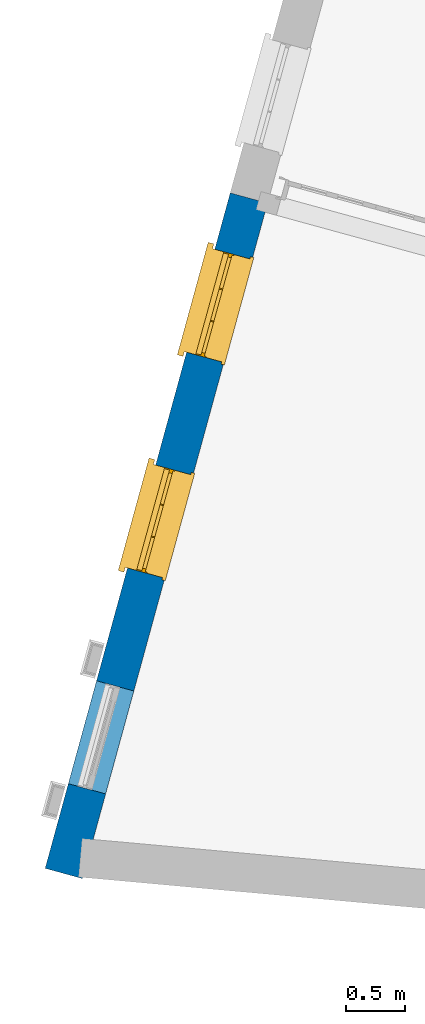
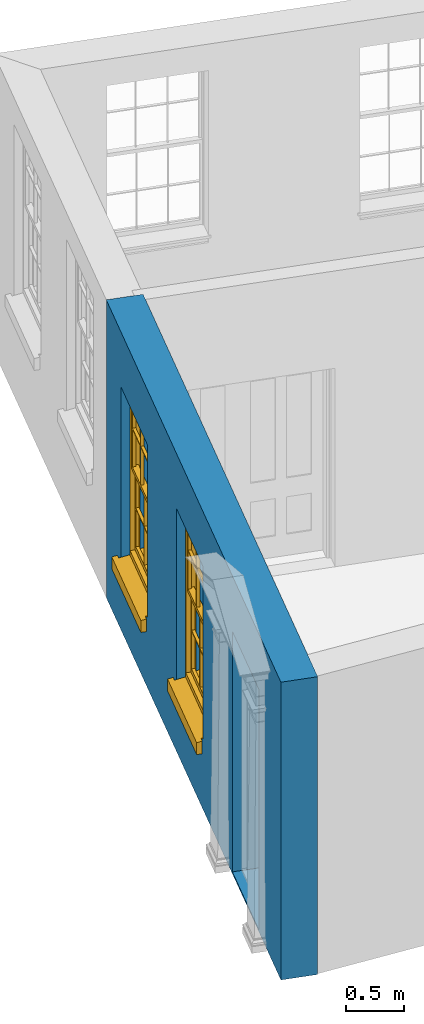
# One storey, part 2 of 8: 2 windows, 1 wall, 3 openings.
"""IFC4 building model written with IfcOpenShell, lengths in metres."""

import ifcopenshell
import ifcopenshell.guid

model = None  # the IFC model being written
_history = None  # IfcOwnerHistory: only IFC2X3 demands one
_inside = {}  # id of a spatial element -> (the spatial element, [elements in it])
_under = {}  # id of a project, library or spatial element -> (it, [spatial elements below it])
_declared = {}  # id of a project -> (the project, [libraries it declares])
_typed = {}  # id of a type object -> (the type object, [elements of that type])
_made_of = {}  # id of a material, layer set ... -> (it, [elements and type objects made of it])


def new_model(schema):
    """Start an empty IFC model of exactly this schema.

    Asked for "IFC4X3", IfcOpenShell would pick the latest addendum, in which some entities
    have other attributes; the version numbers below select the first issue.
    IFC2X3 requires an IfcOwnerHistory on every rooted entity: one is made here for all.
    """
    global model, _history
    if schema == "IFC4X3":
        model = ifcopenshell.file(schema_version=(4, 3, 0, 0))
    else:
        model = ifcopenshell.file(schema=schema)
    _inside.clear()
    _under.clear()
    _declared.clear()
    _typed.clear()
    _made_of.clear()
    _history = None
    if model.schema == "IFC2X3":
        org = make("IfcOrganization", Name="unknown")
        user = make(
            "IfcPersonAndOrganization",
            ThePerson=make("IfcPerson", FamilyName="unknown"),
            TheOrganization=org,
        )
        app = make(
            "IfcApplication",
            ApplicationDeveloper=org,
            Version="unknown",
            ApplicationFullName="unknown",
            ApplicationIdentifier="unknown",
        )
        _history = make(
            "IfcOwnerHistory",
            OwningUser=user,
            OwningApplication=app,
            ChangeAction="ADDED",
            CreationDate=0,
        )
    return model


def make(cls, **values):
    """One entity of the class cls with the attributes given. An attribute that is None is left unset."""
    return model.create_entity(
        cls, **{name: value for name, value in values.items() if value is not None}
    )


def rooted(cls, **values):
    """An entity with a GlobalId (a new one), such as an element, a storey or a relation."""
    return make(cls, GlobalId=ifcopenshell.guid.new(), OwnerHistory=_history, **values)


def si_unit(unit_type, name, prefix=None):
    """IfcSIUnit, for example si_unit("LENGTHUNIT", "METRE", prefix="MILLI")."""
    return make("IfcSIUnit", UnitType=unit_type, Prefix=prefix, Name=name)


def assignment(units):
    """IfcUnitAssignment: the units of a project."""
    return None if units is None else make("IfcUnitAssignment", Units=units)


def point(xyz):
    """IfcCartesianPoint."""
    return None if xyz is None else make("IfcCartesianPoint", Coordinates=xyz)


def direction(xyz):
    """IfcDirection."""
    return None if xyz is None else make("IfcDirection", DirectionRatios=xyz)


def frame(location, z_axis=None, x_axis=None):
    """IfcAxis2Placement3D, a coordinate frame: its origin and axes. An axis left out is left unset."""
    return make(
        "IfcAxis2Placement3D",
        Location=point(location),
        Axis=direction(z_axis),
        RefDirection=direction(x_axis),
    )


def origin():
    """The frame at (0, 0, 0) with its axes left unset."""
    return frame((0.0, 0.0, 0.0))


def origin_with_axes():
    """The frame at (0, 0, 0) with the z axis (0, 0, 1) and the x axis (1, 0, 0) written out."""
    return frame((0.0, 0.0, 0.0), z_axis=(0.0, 0.0, 1.0), x_axis=(1.0, 0.0, 0.0))


def place(relative_to, where):
    """IfcLocalPlacement: puts the frame where relative to a parent placement (None: the world)."""
    return make(
        "IfcLocalPlacement", PlacementRelTo=relative_to, RelativePlacement=where
    )


def context(
    kind, dimensions, precision=None, world=None, true_north=None, identifier=None
):
    """IfcGeometricRepresentationContext, for example the 3D "Model" context."""
    return make(
        "IfcGeometricRepresentationContext",
        ContextIdentifier=identifier,
        ContextType=kind,
        CoordinateSpaceDimension=dimensions,
        Precision=precision,
        WorldCoordinateSystem=world,
        TrueNorth=true_north,
    )


def subcontext(parent, identifier, kind, view, scale=None):
    """IfcGeometricRepresentationSubContext, for example "Body" below "Model"."""
    return make(
        "IfcGeometricRepresentationSubContext",
        ContextIdentifier=identifier,
        ContextType=kind,
        ParentContext=parent,
        TargetScale=scale,
        TargetView=view,
    )


def project(units=None, contexts=None):
    """IfcProject with its units and contexts."""
    return rooted(
        "IfcProject",
        Name="project",
        RepresentationContexts=contexts,
        UnitsInContext=assignment(units),
    )


def spatial(cls, under=None, at=None, **own):
    """A site, building, storey or space (cls), placed at a placement, below another one or the project."""
    s = rooted(cls, ObjectPlacement=at, **own)
    if under is not None:
        _under.setdefault(under.id(), (under, []))[1].append(s)
    return s


def polyline(points):
    """IfcPolyline through the points."""
    return make("IfcPolyline", Points=[point(p) for p in points])


def outline(outer, holes=None, kind="AREA"):
    """IfcArbitraryClosedProfileDef: a profile drawn as a closed curve; with holes, ...WithVoids."""
    if holes is None:
        return make("IfcArbitraryClosedProfileDef", ProfileType=kind, OuterCurve=outer)
    return make(
        "IfcArbitraryProfileDefWithVoids",
        ProfileType=kind,
        OuterCurve=outer,
        InnerCurves=holes,
    )


def extrude(swept, where, along, depth):
    """IfcExtrudedAreaSolid: the profile swept, set in the frame where, extruded along a direction by depth."""
    return make(
        "IfcExtrudedAreaSolid",
        SweptArea=swept,
        Position=where,
        ExtrudedDirection=direction(along),
        Depth=depth,
    )


def faces_of(points, faces, orient=None, outer=None):
    """IfcFace entities. A face is a list of loops; a loop is a list of indices into points, from 0.

    orient and outer hold one flag for each loop. By default every Orientation is true, the
    first loop of a face is its IfcFaceOuterBound and the others are IfcFaceBound.
    """
    made = []
    for i, loops in enumerate(faces):
        bounds = []
        for j, loop in enumerate(loops):
            is_outer = j == 0 if outer is None else outer[i][j]
            bounds.append(
                make(
                    "IfcFaceOuterBound" if is_outer else "IfcFaceBound",
                    Bound=make("IfcPolyLoop", Polygon=[points[k] for k in loop]),
                    Orientation=True if orient is None else orient[i][j],
                )
            )
        made.append(make("IfcFace", Bounds=bounds))
    return made


def faceted_brep(points, faces, orient=None, outer=None, voids=None):
    """IfcFacetedBrep: a solid bounded by flat faces; with voids (closed shells), ...WithVoids."""
    shared = [point(p) for p in points]
    hull = make("IfcClosedShell", CfsFaces=faces_of(shared, faces, orient, outer))
    if voids is None:
        return make("IfcFacetedBrep", Outer=hull)
    return make(
        "IfcFacetedBrepWithVoids",
        Outer=hull,
        Voids=[
            make(cls, CfsFaces=faces_of(shared, fs, o, b)) for cls, fs, o, b in voids
        ],
    )


def shape(context_of_items, identifier, shape_type, items):
    """IfcShapeRepresentation: the items that make up one representation, for example the "Body"."""
    return make(
        "IfcShapeRepresentation",
        ContextOfItems=context_of_items,
        RepresentationIdentifier=identifier,
        RepresentationType=shape_type,
        Items=items,
    )


def source(mapping_origin, context_of_items, identifier, shape_type, items):
    """IfcRepresentationMap: a shape defined once, which mapped items show again and again."""
    return make(
        "IfcRepresentationMap",
        MappingOrigin=mapping_origin,
        MappedRepresentation=shape(context_of_items, identifier, shape_type, items),
    )


def transform(
    local_origin,
    x_axis=None,
    y_axis=None,
    z_axis=None,
    scale=None,
    scale2=None,
    scale3=None,
    uniform=True,
):
    """IfcCartesianTransformationOperator3D, or its non-uniform kind. x_axis, y_axis, z_axis: its Axis1, 2, 3."""
    if uniform:
        return make(
            "IfcCartesianTransformationOperator3D",
            Axis1=direction(x_axis),
            Axis2=direction(y_axis),
            LocalOrigin=point(local_origin),
            Scale=scale,
            Axis3=direction(z_axis),
        )
    return make(
        "IfcCartesianTransformationOperator3DnonUniform",
        Axis1=direction(x_axis),
        Axis2=direction(y_axis),
        LocalOrigin=point(local_origin),
        Scale=scale,
        Axis3=direction(z_axis),
        Scale2=scale2,
        Scale3=scale3,
    )


def mapped(mapping_source, mapping_target):
    """IfcMappedItem: shows the shape of a source again, moved by a transform."""
    return make(
        "IfcMappedItem", MappingSource=mapping_source, MappingTarget=mapping_target
    )


def material(Name=None, Category=None):
    """IfcMaterial."""
    return make("IfcMaterial", Name=Name, Category=Category)


def layer(
    of_material, thickness, ventilated=None, Name=None, Category=None, Priority=None
):
    """IfcMaterialLayer: one layer of a wall or slab, of a material (None: an air gap)."""
    return make(
        "IfcMaterialLayer",
        Material=of_material,
        LayerThickness=thickness,
        IsVentilated=ventilated,
        Name=Name,
        Category=Category,
        Priority=Priority,
    )


def layer_set(layers, Name=None):
    """IfcMaterialLayerSet."""
    return make("IfcMaterialLayerSet", MaterialLayers=layers, LayerSetName=Name)


def layer_usage(for_layer_set, set_direction, sense, offset, extent=None):
    """IfcMaterialLayerSetUsage: how a layer set lies in its element."""
    return make(
        "IfcMaterialLayerSetUsage",
        ForLayerSet=for_layer_set,
        LayerSetDirection=set_direction,
        DirectionSense=sense,
        OffsetFromReferenceLine=offset,
        ReferenceExtent=extent,
    )


def made_of(thing, what):
    """Note that an element or type object is made of a material, layer set ...; save() writes the relation."""
    if what is not None:
        _made_of.setdefault(what.id(), (what, []))[1].append(thing)
    return thing


def type_object(cls, material=None, **own):
    """A type object (cls), such as IfcWallType, which elements share."""
    return made_of(rooted(cls, **own), material)


def type_shapes(of_type, sources):
    """Give a type object the sources (RepresentationMaps) that its elements show as mapped items."""
    of_type.RepresentationMaps = sources


def element(
    cls,
    number,
    at=None,
    inside=None,
    cuts=None,
    type_object=None,
    material=None,
    context=None,
    identifier="Body",
    shape_type=None,
    held_by="IfcProductDefinitionShape",
    body=None,
    shapes=None,
    **own,
):
    """One element of the class cls, such as IfcWall. Its Tag is "e" and its number.

    at: its placement. inside: the storey or other place that contains it. cuts: it is an
    opening in that element (IfcRelVoidsElement). A single representation is given by context,
    identifier, shape_type and body (its items); several are given by shapes. held_by: the class
    of the entity that holds the representations. save() writes the other relations.
    """
    e = rooted(cls, Tag="e%d" % number, ObjectPlacement=at, **own)
    if body is not None:
        shapes = [shape(context, identifier, shape_type, body)]
    if shapes is not None:
        e.Representation = make(held_by, Representations=shapes)
    if inside is not None:
        _inside.setdefault(inside.id(), (inside, []))[1].append(e)
    if cuts is not None:
        rooted(
            "IfcRelVoidsElement", RelatingBuildingElement=cuts, RelatedOpeningElement=e
        )
    if type_object is not None:
        _typed.setdefault(type_object.id(), (type_object, []))[1].append(e)
    return made_of(e, material)


def fill(opening, filler):
    """IfcRelFillsElement: the door or window that sits in an opening."""
    return rooted(
        "IfcRelFillsElement",
        RelatingOpeningElement=opening,
        RelatedBuildingElement=filler,
    )


def aggregate(whole, parts):
    """IfcRelAggregates: a whole, such as a stair, and the parts it consists of."""
    return rooted("IfcRelAggregates", RelatingObject=whole, RelatedObjects=parts)


def save(model, path):
    """Write the relations noted so far, then the file.

    IfcRelAggregates (storeys below a building ...), IfcRelContainedInSpatialStructure (elements
    in a storey), IfcRelDefinesByType, IfcRelAssociatesMaterial and IfcRelDeclares: one each for
    every whole, place, type object, material and project.
    """
    for whole, parts in _under.values():
        aggregate(whole, parts)
    for where, things in _inside.values():
        rooted(
            "IfcRelContainedInSpatialStructure",
            RelatedElements=things,
            RelatingStructure=where,
        )
    for kind, things in _typed.values():
        rooted("IfcRelDefinesByType", RelatedObjects=things, RelatingType=kind)
    for what, things in _made_of.values():
        rooted("IfcRelAssociatesMaterial", RelatedObjects=things, RelatingMaterial=what)
    for by, libraries in _declared.values():
        rooted("IfcRelDeclares", RelatingContext=by, RelatedDefinitions=libraries)
    model.write(path)


model = new_model("IFC4")

# Units and contexts
model_context = context("Model", 3, world=origin_with_axes())
body_context = subcontext(model_context, "Body", "Model", "MODEL_VIEW")
ifc_project = project(units=[si_unit("PLANEANGLEUNIT", "RADIAN"), si_unit("MASSUNIT", "GRAM", prefix="KILO"), si_unit("FORCEUNIT", "NEWTON", prefix="KILO"), si_unit("LENGTHUNIT", "METRE"), si_unit("AREAUNIT", "SQUARE_METRE"), si_unit("VOLUMEUNIT", "CUBIC_METRE")], contexts=[model_context, model_context])

# Sites, building, storey
site_1_placement = place(None, origin_with_axes())
site_1 = spatial("IfcSite", under=ifc_project, at=site_1_placement, Name="Tamar")
site_2_placement = place(site_1_placement, origin_with_axes())
site_2 = spatial("IfcSite", under=site_1, at=site_2_placement, Name="Site plot-28", CompositionType="ELEMENT")
building_placement = place(None, origin_with_axes())
building = spatial("IfcBuilding", under=site_2, at=building_placement, Name="Building plot-28", CompositionType="ELEMENT")
storey_placement = place(None, frame((0.0, 0.0, 24.0), z_axis=(0.0, 0.0, 1.0), x_axis=(1.0, 0.0, 0.0)))
storey = spatial("IfcBuildingStorey", under=building, at=storey_placement, Name="plot-28 0", CompositionType="ELEMENT", Elevation=24.0)

# Wall, openings, windows
ifc_material = material(Name="Masonry")
ifc_layer = layer(ifc_material, 0.33, ventilated=False)
ifc_layer_set = layer_set([ifc_layer], Name="exterior_0.08_0.25")
ifc_layer_usage = layer_usage(ifc_layer_set, "AXIS2", "POSITIVE", -0.25)
wall_type = type_object("IfcWallType", Name="exterior_0.08_0.25", PredefinedType="SOLIDWALL", material=ifc_layer_set)
wall_placement = place(storey_placement, frame((260.599846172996, 265.197737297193, 0.0), z_axis=(0.0, 0.0, 1.0), x_axis=(-0.264255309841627, -0.964452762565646, 0.0)))
wall = element("IfcWall", 1, at=wall_placement, inside=storey, type_object=wall_type, material=ifc_layer_usage, Name="exterior", context=body_context, shape_type="SweptSolid", body=[
    extrude(outline(polyline([(8.65392561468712e-15, 0.0800000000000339), (4.50903628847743e-14, -0.25000000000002), (5.97279719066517, -0.250000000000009), (5.97279719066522, 0.0799999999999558), (8.65392561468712e-15, 0.0800000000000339)])), origin_with_axes(), (0.0, 0.0, 1.0), 3.15),
])
opening_1_placement = place(wall_placement, frame((0.498799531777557, 0.0, 0.75)))
opening_1 = element("IfcOpeningElement", 2, at=opening_1_placement, cuts=wall, Name="My Opening", ObjectType="Opening", context=body_context, shape_type="SweptSolid", body=[
    extrude(outline(polyline([(0.0, -0.270000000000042), (0.909999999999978, -0.270000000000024), (0.909999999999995, 1.10000000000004), (1.62092561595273e-14, 1.10000000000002), (0.0, -0.270000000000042)])), origin_with_axes(), (0.0, 0.0, 1.0), 1.82),
])
opening_2_placement = place(wall_placement, frame((2.40639859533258, 0.0, 0.75)))
opening_2 = element("IfcOpeningElement", 3, at=opening_2_placement, cuts=wall, Name="My Opening", ObjectType="Opening", context=body_context, shape_type="SweptSolid", body=[
    extrude(outline(polyline([(0.0, -0.270000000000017), (0.910000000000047, -0.270000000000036), (0.910000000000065, 1.10000000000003), (1.59872115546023e-14, 1.10000000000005), (0.0, -0.270000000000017)])), origin_with_axes(), (0.0, 0.0, 1.0), 1.82),
])
opening_3_placement = place(wall_placement, frame((4.31399765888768, 0.0, 0.0199999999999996)))
element("IfcOpeningElement", 4, at=opening_3_placement, cuts=wall, Name="My Opening", ObjectType="Opening", context=body_context, shape_type="SweptSolid", body=[
    extrude(outline(polyline([(0.0, -0.270000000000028), (0.909999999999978, -0.270000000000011), (0.909999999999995, 1.10000000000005), (1.68753899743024e-14, 1.10000000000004), (0.0, -0.270000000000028)])), origin_with_axes(), (0.0, 0.0, 1.0), 2.545),
])
window_type = type_object("IfcWindowType", Name="sash_big", PartitioningType="DOUBLE_PANEL_HORIZONTAL", PredefinedType="NOTDEFINED")
shared_shape = source(origin(), body_context, "Body", "Brep", [
    faceted_brep([(0.033125, 0.145, 0.975209), (0.01, 0.145, 0.975209), (0.033125, 0.145, 1.376042), (0.876875, 0.145, 0.975209), (0.876875, 0.145, 1.376042), (0.9, 0.145, 0.975209), (0.876875, 0.145, 1.386042), (0.876875, 0.145, 1.786875), (0.9, 0.145, 1.81), (0.033125, 0.145, 1.786875), (0.033125, 0.145, 1.386042), (0.01, 0.145, 1.81), (0.876875, 0.115, 1.376042), (0.876875, 0.115, 0.975209), (0.9, 0.115, 0.937083), (0.033125, 0.115, 1.786875), (0.01, 0.115, 1.81), (0.033125, 0.115, 1.386042), (0.01, 0.115, 0.937083), (0.033125, 0.115, 0.975209), (0.033125, 0.115, 1.376042), (0.876875, 0.115, 1.786875), (0.876875, 0.115, 1.386042), (0.9, 0.115, 1.81), (0.033125, 0.145, 0.937083), (0.01, 0.145, 0.937083), (0.033125, 0.145, 0.53625), (0.876875, 0.145, 0.937083), (0.876875, 0.145, 0.53625), (0.9, 0.145, 0.937083), (0.876875, 0.145, 0.52625), (0.876875, 0.145, 0.125417), (0.9, 0.145, 0.077167), (0.033125, 0.145, 0.125417), (0.033125, 0.145, 0.52625), (0.01, 0.145, 0.077167), (-0.0425, 0.0, 0.01), (-0.0425, -0.05, 0.001667), (0.0, 0.0, 0.01), (0.9525, 0.0, 0.01), (0.91, 0.0, 0.01), (0.9525, -0.05, 0.001667), (-0.02, 0.33, 0.077167), (0.0, 0.33, 0.077167), (-0.02, 0.36, 0.077167), (0.0, 0.19, 0.077167), (0.01, 0.19, 0.077167), (0.91, 0.19, 0.077167), (0.91, 0.33, 0.077167), (0.9, 0.19, 0.077167), (0.93, 0.33, 0.077167), (0.93, 0.36, 0.077167), (0.01, 0.175, 0.975209), (0.9, 0.175, 0.975209), (0.876875, 0.175, 0.125417), (0.876875, 0.175, 0.52625), (0.9, 0.175, 0.077167), (0.876875, 0.175, 0.53625), (0.876875, 0.175, 0.937083), (0.033125, 0.175, 0.125417), (0.01, 0.175, 0.077167), (0.033125, 0.175, 0.52625), (0.033125, 0.175, 0.937083), (0.033125, 0.175, 0.53625), (-0.02, 0.33, 0.052167), (-0.02, 0.36, 0.052167), (0.93, 0.36, 0.052167), (0.93, 0.33, 0.052167), (0.91, 0.33, 0.052167), (0.0, 0.33, 0.052167), (0.91, 0.1, 0.026667), (0.0, 0.1, 0.026667), (-0.0425, -0.05, -0.123333), (0.9525, -0.05, -0.123333), (-0.0425, 0.0, -0.123333), (0.9525, 0.0, -0.123333), (0.01, 0.19, 1.81), (0.9, 0.19, 1.81), (0.0, 0.19, 1.82), (0.91, 0.19, 1.82), (0.01, 0.1, 0.077167), (0.9, 0.1, 0.077167), (0.592292, 0.145, 0.125417), (0.592292, 0.175, 0.125417), (0.317708, 0.175, 0.125417), (0.317708, 0.145, 0.125417), (0.592292, 0.145, 0.53625), (0.317708, 0.145, 0.53625), (0.317708, 0.145, 0.52625), (0.592292, 0.145, 0.52625), (0.592292, 0.175, 0.53625), (0.317708, 0.175, 0.53625), (0.592292, 0.115, 1.386042), (0.592292, 0.145, 1.386042), (0.317708, 0.145, 1.386042), (0.317708, 0.115, 1.386042), (0.317708, 0.115, 1.376042), (0.592292, 0.115, 1.376042), (0.317708, 0.145, 1.376042), (0.592292, 0.145, 1.376042), (0.602292, 0.115, 1.376042), (0.592292, 0.115, 0.975209), (0.602292, 0.115, 0.975209), (0.602292, 0.145, 0.975209), (0.592292, 0.145, 0.975209), (0.602292, 0.145, 1.376042), (0.602292, 0.175, 0.53625), (0.602292, 0.145, 0.53625), (0.317708, 0.175, 0.52625), (0.307708, 0.175, 0.125417), (0.307708, 0.175, 0.52625), (0.602292, 0.175, 0.52625), (0.602292, 0.175, 0.125417), (0.592292, 0.175, 0.52625), (0.307708, 0.175, 0.53625), (0.317708, 0.175, 0.937083), (0.307708, 0.175, 0.937083), (0.602292, 0.175, 0.937083), (0.592292, 0.175, 0.937083), (0.307708, 0.145, 0.52625), (0.307708, 0.145, 0.125417), (0.307708, 0.145, 0.53625), (0.307708, 0.145, 0.937083), (0.592292, 0.145, 0.937083), (0.317708, 0.145, 0.937083), (0.602292, 0.145, 0.937083), (0.602292, 0.145, 0.52625), (0.602292, 0.145, 0.125417), (0.307708, 0.115, 1.386042), (0.307708, 0.115, 1.376042), (0.307708, 0.115, 0.975209), (0.317708, 0.115, 0.975209), (0.317708, 0.115, 1.786875), (0.307708, 0.115, 1.786875), (0.602292, 0.115, 1.786875), (0.592292, 0.115, 1.786875), (0.602292, 0.115, 1.386042), (0.602292, 0.145, 1.386042), (0.307708, 0.145, 1.386042), (0.307708, 0.145, 1.786875), (0.317708, 0.145, 1.786875), (0.592292, 0.145, 1.786875), (0.602292, 0.145, 1.786875), (0.307708, 0.145, 1.376042), (0.317708, 0.145, 0.975209), (0.307708, 0.145, 0.975209), (0.91, 0.1, 1.82), (0.9, 0.1, 1.81), (0.01, 0.1, 1.81), (0.0, 0.1, 1.82), (0.91, 0.0, 0.0), (0.0, 0.0, 0.0), (0.91, 0.33, 0.0), (0.0, 0.33, 0.0)], [[[0, 1, 2]], [[3, 4, 5]], [[6, 7, 8]], [[9, 10, 11]], [[12, 13, 14]], [[15, 16, 17]], [[18, 19, 20]], [[21, 22, 23]], [[24, 25, 26]], [[27, 28, 29]], [[30, 31, 32]], [[33, 34, 35]], [[14, 27, 29]], [[25, 24, 18]], [[36, 37, 38]], [[39, 40, 41]], [[42, 43, 44]], [[45, 46, 43]], [[47, 48, 49]], [[50, 51, 48]], [[1, 0, 52]], [[5, 53, 3]], [[54, 55, 56]], [[57, 58, 53]], [[59, 60, 61]], [[62, 63, 52]], [[48, 43, 46, 49]], [[51, 44, 43, 48]], [[64, 42, 44, 65]], [[65, 44, 51, 66]], [[66, 51, 50, 67]], [[65, 66, 68, 69]], [[60, 56, 49, 46]], [[70, 71, 38, 40]], [[37, 41, 40, 38]], [[37, 72, 73, 41]], [[74, 75, 73, 72]], [[8, 11, 76, 77]], [[76, 78, 79, 77]], [[32, 35, 80, 81]], [[81, 80, 71, 70]], [[82, 83, 84, 85]], [[86, 87, 88, 89]], [[86, 90, 91, 87]], [[92, 93, 94, 95]], [[92, 95, 96, 97]], [[96, 98, 99, 97]], [[100, 97, 101, 102]], [[103, 104, 99, 105]], [[97, 99, 104, 101]], [[102, 103, 105, 100]], [[28, 57, 106, 107]], [[108, 84, 109, 110]], [[111, 112, 83, 113]], [[114, 110, 61, 63]], [[90, 113, 108, 91]], [[115, 91, 114, 116]], [[117, 106, 90, 118]], [[111, 106, 57, 55]], [[119, 110, 109, 120]], [[34, 61, 110, 119]], [[89, 113, 83, 82]], [[88, 108, 113, 89]], [[85, 84, 108, 88]], [[121, 114, 63, 26]], [[122, 116, 114, 121]], [[123, 118, 90, 86]], [[87, 91, 115, 124]], [[107, 106, 117, 125]], [[126, 111, 55, 30]], [[127, 112, 111, 126]], [[126, 30, 28, 107]], [[88, 119, 120, 85]], [[126, 89, 82, 127]], [[125, 123, 86, 107]], [[121, 26, 34, 119]], [[124, 122, 121, 87]], [[128, 17, 20, 129]], [[96, 129, 130, 131]], [[132, 133, 128, 95]], [[134, 135, 92, 136]], [[100, 12, 22, 136]], [[137, 6, 4, 105]], [[94, 138, 139, 140]], [[137, 93, 141, 142]], [[99, 98, 94, 93]], [[143, 2, 10, 138]], [[144, 145, 143, 98]], [[129, 143, 145, 130]], [[20, 2, 143, 129]], [[131, 144, 98, 96]], [[128, 138, 10, 17]], [[133, 139, 138, 128]], [[135, 141, 93, 92]], [[95, 94, 140, 132]], [[22, 6, 137, 136]], [[136, 137, 142, 134]], [[100, 105, 4, 12]], [[107, 86, 89, 126]], [[106, 111, 113, 90]], [[91, 108, 110, 114]], [[87, 121, 119, 88]], [[97, 100, 136, 92]], [[129, 96, 95, 128]], [[98, 143, 138, 94]], [[105, 99, 93, 137]], [[131, 101, 104, 144]], [[124, 115, 118, 123]], [[132, 140, 141, 135]], [[120, 109, 59, 33]], [[15, 9, 139, 133]], [[134, 142, 7, 21]], [[31, 54, 112, 127]], [[36, 74, 72, 37]], [[39, 41, 73, 75]], [[18, 14, 101, 131]], [[23, 16, 132, 135]], [[83, 56, 60, 84]], [[52, 53, 118, 115]], [[53, 52, 144, 104]], [[11, 8, 141, 140]], [[14, 18, 124, 123]], [[2, 1, 11, 10]], [[8, 5, 4, 6]], [[57, 53, 56, 55]], [[60, 52, 63, 61]], [[26, 25, 35, 34]], [[32, 29, 28, 30]], [[14, 23, 22, 12]], [[18, 20, 17, 16]], [[19, 0, 2, 20]], [[17, 10, 9, 15]], [[12, 4, 3, 13]], [[21, 7, 6, 22]], [[27, 58, 57, 28]], [[30, 55, 54, 31]], [[33, 59, 61, 34]], [[26, 63, 62, 24]], [[5, 8, 77, 53]], [[76, 11, 1, 52]], [[46, 45, 78, 76]], [[49, 77, 79, 47]], [[70, 146, 147, 81]], [[71, 80, 148, 149]], [[19, 130, 145, 0]], [[102, 13, 3, 103]], [[116, 122, 24, 62]], [[29, 32, 81, 14]], [[80, 35, 25, 18]], [[60, 46, 76, 52]], [[77, 49, 56, 53]], [[23, 14, 81, 147]], [[16, 148, 80, 18]], [[35, 85, 120]], [[120, 33, 35]], [[127, 82, 32]], [[32, 31, 127]], [[32, 82, 85, 35]], [[102, 101, 14]], [[14, 13, 102]], [[18, 131, 130]], [[130, 19, 18]], [[134, 21, 23]], [[23, 135, 134]], [[16, 15, 133]], [[133, 132, 16]], [[11, 140, 139]], [[139, 9, 11]], [[142, 141, 8]], [[8, 7, 142]], [[23, 147, 148, 16]], [[146, 149, 148, 147]], [[52, 115, 116]], [[116, 62, 52]], [[118, 53, 117]], [[58, 117, 53]], [[27, 125, 117, 58]], [[56, 83, 112]], [[112, 54, 56]], [[109, 84, 60]], [[60, 59, 109]], [[125, 27, 14]], [[14, 123, 125]], [[122, 124, 18]], [[18, 24, 122]], [[145, 144, 52]], [[52, 0, 145]], [[103, 3, 53]], [[53, 104, 103]], [[79, 78, 149, 146]], [[78, 45, 71, 149]], [[146, 70, 47, 79]], [[150, 75, 74, 151]], [[68, 66, 67]], [[48, 68, 67, 50]], [[69, 64, 65]], [[42, 64, 69, 43]], [[69, 68, 152, 153]], [[70, 68, 48, 47]], [[150, 152, 68, 70]], [[43, 69, 71, 45]], [[69, 153, 151, 71]], [[152, 150, 151, 153]], [[38, 151, 74, 36]], [[71, 151, 38]], [[39, 75, 150, 40]], [[40, 150, 70]]]),
])
type_shapes(window_type, [shared_shape])
window_1_placement = place(storey_placement, frame((260.207633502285, 264.788017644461, 0.75), z_axis=(0.0, 0.0, 1.0), x_axis=(-0.240472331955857, -0.877652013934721, 0.0)))
window_1 = element("IfcWindow", 5, at=window_1_placement, inside=storey, type_object=window_type, Name="living street window", OverallHeight=1.82, OverallWidth=0.91, context=body_context, shape_type="MappedRepresentation", body=[
    mapped(shared_shape, transform((0.0, 0.0, 0.0), scale=1.0)),
])
fill(opening_1, window_1)
window_2_placement = place(storey_placement, frame((259.703540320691, 262.948228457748, 0.75), z_axis=(0.0, 0.0, 1.0), x_axis=(-0.240472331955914, -0.877652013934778, 0.0)))
window_2 = element("IfcWindow", 6, at=window_2_placement, inside=storey, type_object=window_type, Name="living street window", OverallHeight=1.82, OverallWidth=0.91, context=body_context, shape_type="MappedRepresentation", body=[
    mapped(shared_shape, transform((0.0, 0.0, 0.0), scale=1.0)),
])
fill(opening_2, window_2)

save(model, "model.ifc")
